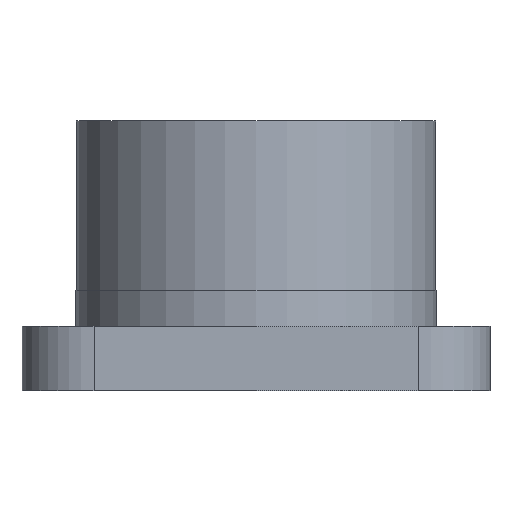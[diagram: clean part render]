
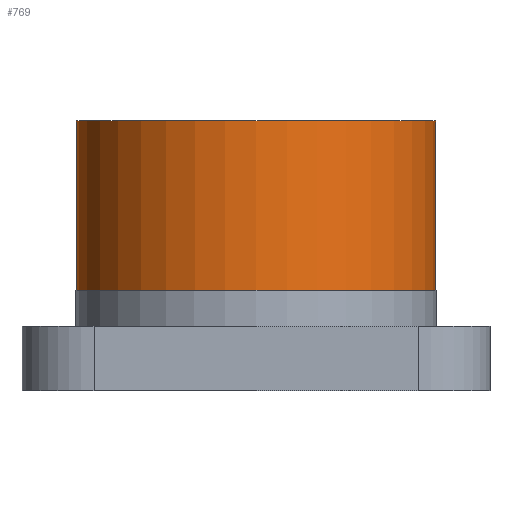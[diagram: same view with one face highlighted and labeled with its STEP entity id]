
A CAD part, front view. The second image highlights one B-rep face of the part: STEP entity #769.
In plain terms, the highlighted cylindrical face has radius 49.9 mm (diameter 99.8 mm), a partial arc.
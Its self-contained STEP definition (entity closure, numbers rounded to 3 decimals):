
#43 = EDGE_CURVE ( 'NONE', #234, #949, #836, .T. ) ;
#56 = VERTEX_POINT ( 'NONE', #125 ) ;
#82 = AXIS2_PLACEMENT_3D ( 'NONE', #657, #947, #510 ) ;
#92 = DIRECTION ( 'NONE',  ( 0., 0., 1. ) ) ;
#104 = CARTESIAN_POINT ( 'NONE',  ( 49.9, 0., 28. ) ) ;
#119 = CARTESIAN_POINT ( 'NONE',  ( 0., 0., 28. ) ) ;
#125 = CARTESIAN_POINT ( 'NONE',  ( -49.9, 0., 75. ) ) ;
#164 = EDGE_CURVE ( 'NONE', #234, #56, #632, .T. ) ;
#190 = EDGE_LOOP ( 'NONE', ( #897, #515, #415, #796 ) ) ;
#225 = VERTEX_POINT ( 'NONE', #256 ) ;
#234 = VERTEX_POINT ( 'NONE', #262 ) ;
#256 = CARTESIAN_POINT ( 'NONE',  ( 49.9, 0., 75. ) ) ;
#262 = CARTESIAN_POINT ( 'NONE',  ( -49.9, 0., 28. ) ) ;
#358 = FACE_OUTER_BOUND ( 'NONE', #190, .T. ) ;
#403 = EDGE_CURVE ( 'NONE', #56, #225, #502, .T. ) ;
#407 = AXIS2_PLACEMENT_3D ( 'NONE', #119, #715, #924 ) ;
#415 = ORIENTED_EDGE ( 'NONE', *, *, #575, .T. ) ;
#440 = VECTOR ( 'NONE', #92, 1000. ) ;
#452 = DIRECTION ( 'NONE',  ( 0., 0., 1. ) ) ;
#502 = CIRCLE ( 'NONE', #82, 49.9 ) ;
#510 = DIRECTION ( 'NONE',  ( 1., 0., 0. ) ) ;
#515 = ORIENTED_EDGE ( 'NONE', *, *, #43, .T. ) ;
#521 = AXIS2_PLACEMENT_3D ( 'NONE', #802, #452, #951 ) ;
#526 = LINE ( 'NONE', #680, #440 ) ;
#545 = CARTESIAN_POINT ( 'NONE',  ( -49.9, 0., 28. ) ) ;
#575 = EDGE_CURVE ( 'NONE', #949, #225, #526, .T. ) ;
#578 = CYLINDRICAL_SURFACE ( 'NONE', #521, 49.9 ) ;
#632 = LINE ( 'NONE', #545, #791 ) ;
#657 = CARTESIAN_POINT ( 'NONE',  ( 0., 0., 75. ) ) ;
#680 = CARTESIAN_POINT ( 'NONE',  ( 49.9, 0., 28. ) ) ;
#715 = DIRECTION ( 'NONE',  ( 0., 0., 1. ) ) ;
#769 = ADVANCED_FACE ( 'NONE', ( #358 ), #578, .T. ) ;
#770 = DIRECTION ( 'NONE',  ( 0., 0., 1. ) ) ;
#791 = VECTOR ( 'NONE', #770, 1000. ) ;
#796 = ORIENTED_EDGE ( 'NONE', *, *, #403, .F. ) ;
#802 = CARTESIAN_POINT ( 'NONE',  ( 0., 0., 28. ) ) ;
#836 = CIRCLE ( 'NONE', #407, 49.9 ) ;
#897 = ORIENTED_EDGE ( 'NONE', *, *, #164, .F. ) ;
#924 = DIRECTION ( 'NONE',  ( 1., 0., 0. ) ) ;
#947 = DIRECTION ( 'NONE',  ( 0., 0., 1. ) ) ;
#949 = VERTEX_POINT ( 'NONE', #104 ) ;
#951 = DIRECTION ( 'NONE',  ( 1., 0., 0. ) ) ;
